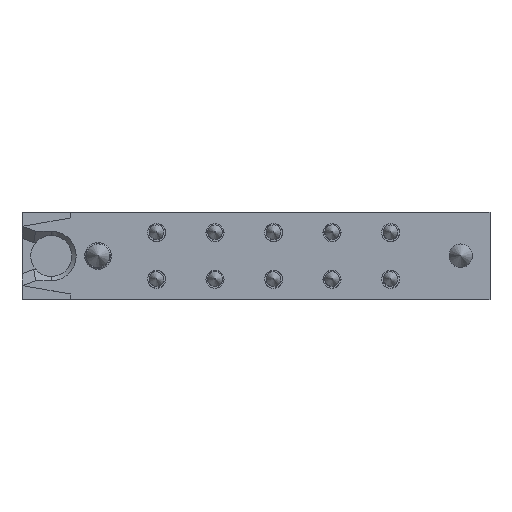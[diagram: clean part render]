
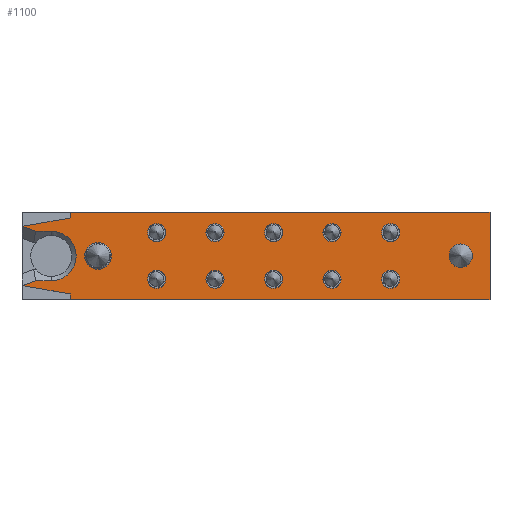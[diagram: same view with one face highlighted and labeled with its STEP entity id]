
A CAD part, top view. The second image highlights one B-rep face of the part: STEP entity #1100.
In plain terms, the highlighted planar face has unit normal (0, 0, 1) as drawn and (0, 0, -1) by its records, which use the part's own axes.
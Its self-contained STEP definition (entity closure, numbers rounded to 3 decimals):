
#179=CIRCLE('',#1235,3.1);
#180=CIRCLE('',#1236,3.1);
#181=CIRCLE('',#1237,3.1);
#182=CIRCLE('',#1238,3.1);
#183=CIRCLE('',#1239,3.1);
#184=CIRCLE('',#1240,3.1);
#185=CIRCLE('',#1241,3.1);
#186=CIRCLE('',#1242,3.1);
#187=CIRCLE('',#1243,3.1);
#188=CIRCLE('',#1244,3.1);
#189=CIRCLE('',#1245,4.55);
#190=CIRCLE('',#1246,4.);
#191=CIRCLE('',#1247,8.5);
#247=ORIENTED_EDGE('',*,*,#475,.T.);
#248=ORIENTED_EDGE('',*,*,#476,.T.);
#249=ORIENTED_EDGE('',*,*,#477,.T.);
#250=ORIENTED_EDGE('',*,*,#478,.T.);
#251=ORIENTED_EDGE('',*,*,#479,.T.);
#252=ORIENTED_EDGE('',*,*,#480,.T.);
#253=ORIENTED_EDGE('',*,*,#481,.T.);
#254=ORIENTED_EDGE('',*,*,#482,.T.);
#255=ORIENTED_EDGE('',*,*,#483,.T.);
#256=ORIENTED_EDGE('',*,*,#484,.T.);
#257=ORIENTED_EDGE('',*,*,#485,.T.);
#258=ORIENTED_EDGE('',*,*,#486,.T.);
#259=ORIENTED_EDGE('',*,*,#487,.F.);
#260=ORIENTED_EDGE('',*,*,#488,.T.);
#261=ORIENTED_EDGE('',*,*,#489,.T.);
#262=ORIENTED_EDGE('',*,*,#490,.T.);
#263=ORIENTED_EDGE('',*,*,#491,.T.);
#264=ORIENTED_EDGE('',*,*,#492,.T.);
#265=ORIENTED_EDGE('',*,*,#493,.T.);
#266=ORIENTED_EDGE('',*,*,#494,.T.);
#267=ORIENTED_EDGE('',*,*,#495,.F.);
#268=ORIENTED_EDGE('',*,*,#496,.F.);
#269=ORIENTED_EDGE('',*,*,#497,.F.);
#270=ORIENTED_EDGE('',*,*,#498,.F.);
#475=EDGE_CURVE('',#589,#589,#179,.T.);
#476=EDGE_CURVE('',#590,#590,#180,.T.);
#477=EDGE_CURVE('',#591,#591,#181,.T.);
#478=EDGE_CURVE('',#592,#592,#182,.T.);
#479=EDGE_CURVE('',#593,#593,#183,.T.);
#480=EDGE_CURVE('',#594,#594,#184,.T.);
#481=EDGE_CURVE('',#595,#595,#185,.T.);
#482=EDGE_CURVE('',#596,#596,#186,.T.);
#483=EDGE_CURVE('',#597,#597,#187,.T.);
#484=EDGE_CURVE('',#598,#598,#188,.T.);
#485=EDGE_CURVE('',#599,#599,#189,.T.);
#486=EDGE_CURVE('',#600,#600,#190,.T.);
#487=EDGE_CURVE('',#601,#602,#686,.T.);
#488=EDGE_CURVE('',#601,#603,#687,.T.);
#489=EDGE_CURVE('',#603,#604,#688,.T.);
#490=EDGE_CURVE('',#604,#605,#689,.T.);
#491=EDGE_CURVE('',#605,#606,#690,.T.);
#492=EDGE_CURVE('',#606,#607,#191,.T.);
#493=EDGE_CURVE('',#607,#608,#691,.T.);
#494=EDGE_CURVE('',#608,#609,#692,.T.);
#495=EDGE_CURVE('',#610,#609,#693,.T.);
#496=EDGE_CURVE('',#611,#610,#694,.T.);
#497=EDGE_CURVE('',#612,#611,#695,.T.);
#498=EDGE_CURVE('',#602,#612,#696,.T.);
#589=VERTEX_POINT('',#1789);
#590=VERTEX_POINT('',#1791);
#591=VERTEX_POINT('',#1793);
#592=VERTEX_POINT('',#1795);
#593=VERTEX_POINT('',#1797);
#594=VERTEX_POINT('',#1799);
#595=VERTEX_POINT('',#1801);
#596=VERTEX_POINT('',#1803);
#597=VERTEX_POINT('',#1805);
#598=VERTEX_POINT('',#1807);
#599=VERTEX_POINT('',#1809);
#600=VERTEX_POINT('',#1811);
#601=VERTEX_POINT('',#1813);
#602=VERTEX_POINT('',#1814);
#603=VERTEX_POINT('',#1816);
#604=VERTEX_POINT('',#1818);
#605=VERTEX_POINT('',#1820);
#606=VERTEX_POINT('',#1822);
#607=VERTEX_POINT('',#1824);
#608=VERTEX_POINT('',#1826);
#609=VERTEX_POINT('',#1828);
#610=VERTEX_POINT('',#1830);
#611=VERTEX_POINT('',#1832);
#612=VERTEX_POINT('',#1834);
#686=LINE('',#1812,#736);
#687=LINE('',#1815,#737);
#688=LINE('',#1817,#738);
#689=LINE('',#1819,#739);
#690=LINE('',#1821,#740);
#691=LINE('',#1825,#741);
#692=LINE('',#1827,#742);
#693=LINE('',#1829,#743);
#694=LINE('',#1831,#744);
#695=LINE('',#1833,#745);
#696=LINE('',#1835,#746);
#736=VECTOR('',#1431,1000.);
#737=VECTOR('',#1432,1000.);
#738=VECTOR('',#1433,1000.);
#739=VECTOR('',#1434,1000.);
#740=VECTOR('',#1435,1000.);
#741=VECTOR('',#1438,1000.);
#742=VECTOR('',#1439,1000.);
#743=VECTOR('',#1440,1000.);
#744=VECTOR('',#1441,1000.);
#745=VECTOR('',#1442,1000.);
#746=VECTOR('',#1443,1000.);
#783=EDGE_LOOP('',(#247));
#784=EDGE_LOOP('',(#248));
#785=EDGE_LOOP('',(#249));
#786=EDGE_LOOP('',(#250));
#787=EDGE_LOOP('',(#251));
#788=EDGE_LOOP('',(#252));
#789=EDGE_LOOP('',(#253));
#790=EDGE_LOOP('',(#254));
#791=EDGE_LOOP('',(#255));
#792=EDGE_LOOP('',(#256));
#793=EDGE_LOOP('',(#257));
#794=EDGE_LOOP('',(#258));
#795=EDGE_LOOP('',(#259,#260,#261,#262,#263,#264,#265,#266,#267,#268,#269,
#270));
#926=FACE_BOUND('',#783,.T.);
#927=FACE_BOUND('',#784,.T.);
#928=FACE_BOUND('',#785,.T.);
#929=FACE_BOUND('',#786,.T.);
#930=FACE_BOUND('',#787,.T.);
#931=FACE_BOUND('',#788,.T.);
#932=FACE_BOUND('',#789,.T.);
#933=FACE_BOUND('',#790,.T.);
#934=FACE_BOUND('',#791,.T.);
#935=FACE_BOUND('',#792,.T.);
#936=FACE_BOUND('',#793,.T.);
#937=FACE_BOUND('',#794,.T.);
#938=FACE_BOUND('',#795,.T.);
#1071=PLANE('',#1234);
#1100=ADVANCED_FACE('',(#926,#927,#928,#929,#930,#931,#932,#933,#934,#935,
#936,#937,#938),#1071,.F.);
#1234=AXIS2_PLACEMENT_3D('',#1787,#1405,#1406);
#1235=AXIS2_PLACEMENT_3D('',#1788,#1407,#1408);
#1236=AXIS2_PLACEMENT_3D('',#1790,#1409,#1410);
#1237=AXIS2_PLACEMENT_3D('',#1792,#1411,#1412);
#1238=AXIS2_PLACEMENT_3D('',#1794,#1413,#1414);
#1239=AXIS2_PLACEMENT_3D('',#1796,#1415,#1416);
#1240=AXIS2_PLACEMENT_3D('',#1798,#1417,#1418);
#1241=AXIS2_PLACEMENT_3D('',#1800,#1419,#1420);
#1242=AXIS2_PLACEMENT_3D('',#1802,#1421,#1422);
#1243=AXIS2_PLACEMENT_3D('',#1804,#1423,#1424);
#1244=AXIS2_PLACEMENT_3D('',#1806,#1425,#1426);
#1245=AXIS2_PLACEMENT_3D('',#1808,#1427,#1428);
#1246=AXIS2_PLACEMENT_3D('',#1810,#1429,#1430);
#1247=AXIS2_PLACEMENT_3D('',#1823,#1436,#1437);
#1405=DIRECTION('',(0.,0.,1.));
#1406=DIRECTION('',(1.,0.,0.));
#1407=DIRECTION('',(0.,0.,1.));
#1408=DIRECTION('',(1.,0.,0.));
#1409=DIRECTION('',(0.,0.,1.));
#1410=DIRECTION('',(1.,0.,0.));
#1411=DIRECTION('',(0.,0.,1.));
#1412=DIRECTION('',(1.,0.,0.));
#1413=DIRECTION('',(0.,0.,1.));
#1414=DIRECTION('',(1.,0.,0.));
#1415=DIRECTION('',(0.,0.,1.));
#1416=DIRECTION('',(1.,0.,0.));
#1417=DIRECTION('',(0.,0.,1.));
#1418=DIRECTION('',(1.,0.,0.));
#1419=DIRECTION('',(0.,0.,1.));
#1420=DIRECTION('',(1.,0.,0.));
#1421=DIRECTION('',(0.,0.,1.));
#1422=DIRECTION('',(1.,0.,0.));
#1423=DIRECTION('',(0.,0.,1.));
#1424=DIRECTION('',(1.,0.,0.));
#1425=DIRECTION('',(0.,0.,1.));
#1426=DIRECTION('',(1.,0.,0.));
#1427=DIRECTION('',(0.,0.,1.));
#1428=DIRECTION('',(1.,0.,0.));
#1429=DIRECTION('',(0.,0.,1.));
#1430=DIRECTION('',(1.,0.,0.));
#1431=DIRECTION('',(-1.,0.,0.));
#1432=DIRECTION('',(0.,-1.,0.));
#1433=DIRECTION('',(0.985,-0.174,0.));
#1434=DIRECTION('',(-0.94,-0.342,0.));
#1435=DIRECTION('',(-1.,0.,0.));
#1436=DIRECTION('',(0.,0.,1.));
#1437=DIRECTION('',(1.,0.,0.));
#1438=DIRECTION('',(1.,0.,0.));
#1439=DIRECTION('',(0.94,-0.342,0.));
#1440=DIRECTION('',(0.985,0.174,0.));
#1441=DIRECTION('',(0.,1.,0.));
#1442=DIRECTION('',(1.,0.,0.));
#1443=DIRECTION('',(0.,-1.,0.));
#1787=CARTESIAN_POINT('',(-80.,15.,-5.));
#1788=CARTESIAN_POINT('',(-46.,8.,-5.));
#1789=CARTESIAN_POINT('',(-42.9,8.,-5.));
#1790=CARTESIAN_POINT('',(-46.,-8.,-5.));
#1791=CARTESIAN_POINT('',(-42.9,-8.,-5.));
#1792=CARTESIAN_POINT('',(-26.,8.,-5.));
#1793=CARTESIAN_POINT('',(-22.9,8.,-5.));
#1794=CARTESIAN_POINT('',(-26.,-8.,-5.));
#1795=CARTESIAN_POINT('',(-22.9,-8.,-5.));
#1796=CARTESIAN_POINT('',(-6.,8.,-5.));
#1797=CARTESIAN_POINT('',(-2.9,8.,-5.));
#1798=CARTESIAN_POINT('',(-6.,-8.,-5.));
#1799=CARTESIAN_POINT('',(-2.9,-8.,-5.));
#1800=CARTESIAN_POINT('',(14.,8.,-5.));
#1801=CARTESIAN_POINT('',(17.1,8.,-5.));
#1802=CARTESIAN_POINT('',(14.,-8.,-5.));
#1803=CARTESIAN_POINT('',(17.1,-8.,-5.));
#1804=CARTESIAN_POINT('',(34.,8.,-5.));
#1805=CARTESIAN_POINT('',(37.1,8.,-5.));
#1806=CARTESIAN_POINT('',(34.,-8.,-5.));
#1807=CARTESIAN_POINT('',(37.1,-8.,-5.));
#1808=CARTESIAN_POINT('',(54.,0.,-5.));
#1809=CARTESIAN_POINT('',(58.55,0.,-5.));
#1810=CARTESIAN_POINT('',(-70.,0.,-5.));
#1811=CARTESIAN_POINT('',(-66.,0.,-5.));
#1812=CARTESIAN_POINT('',(80.,15.,-5.));
#1813=CARTESIAN_POINT('',(63.5,15.,-5.));
#1814=CARTESIAN_POINT('',(-80.,15.,-5.));
#1815=CARTESIAN_POINT('',(63.5,15.,-5.));
#1816=CARTESIAN_POINT('',(63.5,13.,-5.));
#1817=CARTESIAN_POINT('',(-76.015,37.6,-5.));
#1818=CARTESIAN_POINT('',(79.78,10.129,-5.));
#1819=CARTESIAN_POINT('',(74.649,8.262,-5.));
#1820=CARTESIAN_POINT('',(75.304,8.5,-5.));
#1821=CARTESIAN_POINT('',(70.,8.5,-5.));
#1822=CARTESIAN_POINT('',(70.,8.5,-5.));
#1823=CARTESIAN_POINT('',(70.,0.,-5.));
#1824=CARTESIAN_POINT('',(70.,-8.5,-5.));
#1825=CARTESIAN_POINT('',(76.,-8.5,-5.));
#1826=CARTESIAN_POINT('',(75.304,-8.5,-5.));
#1827=CARTESIAN_POINT('',(78.649,-9.718,-5.));
#1828=CARTESIAN_POINT('',(79.78,-10.129,-5.));
#1829=CARTESIAN_POINT('',(-70.885,-36.696,-5.));
#1830=CARTESIAN_POINT('',(63.5,-13.,-5.));
#1831=CARTESIAN_POINT('',(63.5,15.,-5.));
#1832=CARTESIAN_POINT('',(63.5,-15.,-5.));
#1833=CARTESIAN_POINT('',(-80.,-15.,-5.));
#1834=CARTESIAN_POINT('',(-80.,-15.,-5.));
#1835=CARTESIAN_POINT('',(-80.,15.,-5.));
